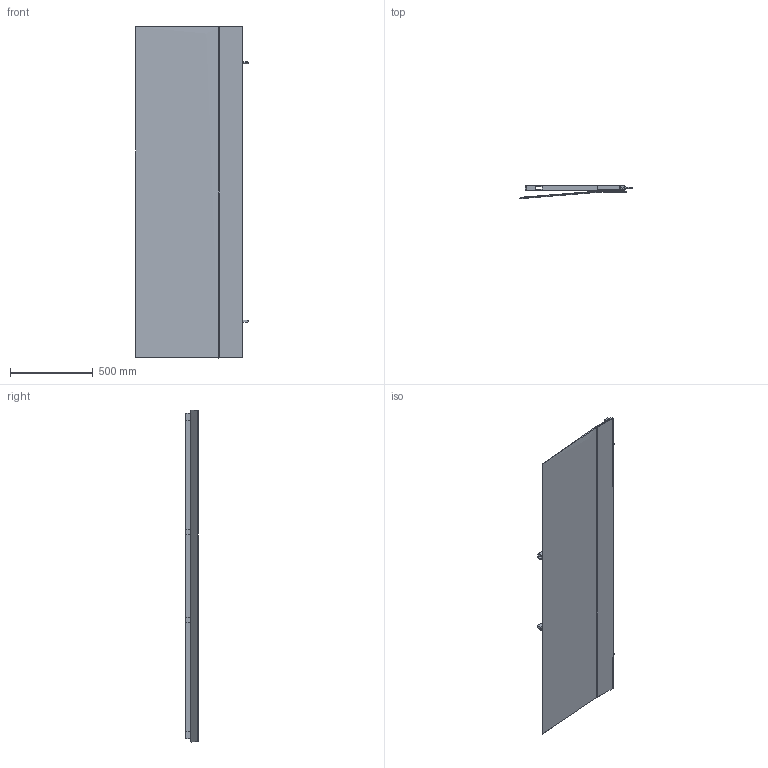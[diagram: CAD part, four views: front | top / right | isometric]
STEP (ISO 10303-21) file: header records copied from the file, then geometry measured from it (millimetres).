
FILE_DESCRIPTION(/* description */ (''),/* implementation_level */ '2;1');
FILE_NAME(/* name */ 'MGT102',/* time_stamp */ '2026-06-09T16:52:44+02:00',/* author */ (''),/* organization */ (''),/* preprocessor_version */ 'ST-DEVELOPER v16.5',/* originating_system */ '',/* authorisation */ '');
FILE_SCHEMA (('AUTOMOTIVE_DESIGN'));
Length unit declared in the file: millimetre
Products named in the file (1): Document
Bounding box: 680.9 x 78.33 x 2006.48 mm (x, y, z)
Volume: 17313730.7 mm3; surface area: 7129303.5 mm2
Topology: 13 solids, 13 shells, 223 faces, 671 edges, 420 vertices
Faces by surface type: bspline 124, plane 99
Entity records: 12816 total; most frequent: CARTESIAN_POINT 8841, ORIENTED_EDGE 1202, EDGE_CURVE 601, VERTEX_POINT 406, B_SPLINE_CURVE_WITH_KNOTS 383, EDGE_LOOP 265, ADVANCED_FACE 223, FACE_OUTER_BOUND 223
